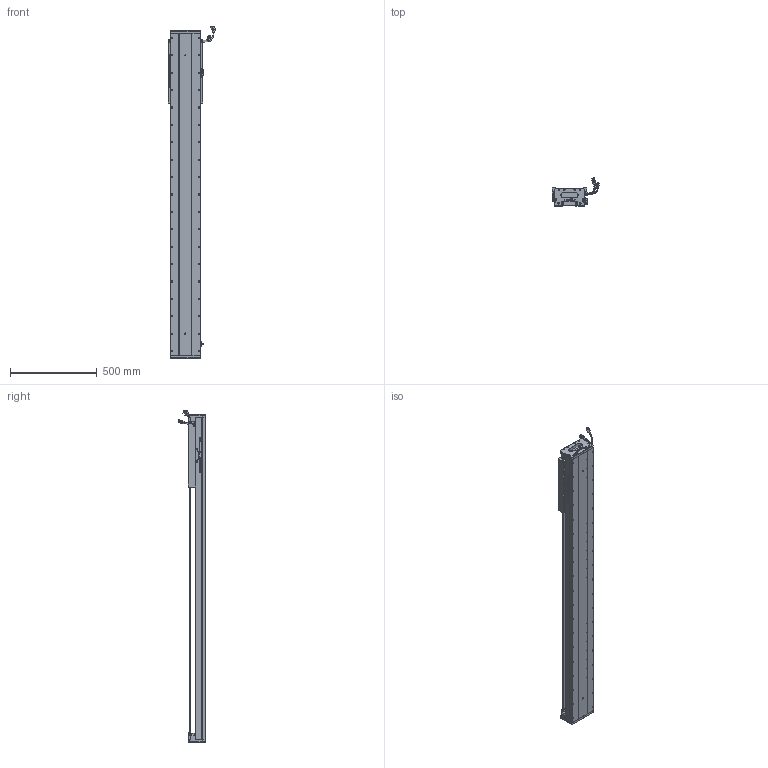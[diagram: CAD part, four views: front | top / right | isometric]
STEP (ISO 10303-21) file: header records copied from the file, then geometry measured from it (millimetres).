
FILE_DESCRIPTION (( 'STEP AP203' ), '1' );
FILE_NAME ('Z5-RY170D-1-L500-B-K.SLDASM_1400.step', '2021-05-18T00:40:47', ( '盈信电脑' ), ( '东莞市道滘镇水果街19号' ), 'SwSTEP 2.0', 'SolidWorks 2016', '' );
FILE_SCHEMA (( 'CONFIG_CONTROL_DESIGN' ));
Length unit declared in the file: millimetre
Products named in the file (36): 140雄赽晤鎢ん堤盄; Z5-RY170臏賑輸(21遴); SEAL-Part-1; Z-170詩湍傷裔啣; COVER-Part-1; SCREW-M1.7-1; SCREW-M1.6-1; RY170直线电机感应器672光电感应片; SCREW-M1.6; PBU_SHEET; SCREW-M1.6-3; PSLH080_PSLF2; SCALE-Part-1; 080黍杅芛假蚾釱21遴; 榋妏寠巭燃_暯_M2_2; SCALE; Z5-RY170-L500耀郪菁釱_1400; HARNESS-Part-1; LABEL-Part-1; Z5-RY170-L500詩湍145mm遵_1400; HARNESS; SCREW-M1.6-2; HOLDER0; SCALE-Part-2; 140蚥薯蝶輸; LABEL; Z5-RY170D-1-L500-B-K.SLDASM_1400; SHIELDPLATE; 覜茼ん672; COVER; Z-RY170詩湍奻揤裔; Z-RY170詩湍狟揤裔; 170-Z-臏賑輸盄裔(21遴); SCREW-M1.7; HARNESS-Part-2; SEAL
Assembly tree (41 placements, depth 4):
  Z5-RY170D-1-L500-B-K.SLDASM_1400
    Z5-RY170-L500耀郪菁釱_1400
    RY170直线电机感应器672光电感应片
    Z5-RY170臏賑輸(21遴)
    覜茼ん672  x3
    PSLH080_PSLF2
      SCALE
        SCALE-Part-1
        SCALE-Part-2
      HARNESS
        HARNESS-Part-1
        HARNESS-Part-2
      LABEL
        LABEL-Part-1
      COVER
        COVER-Part-1
      SEAL
        SEAL-Part-1
      榋妏寠巭燃_暯_M2_2
      SHIELDPLATE
      SCREW-M1.7
      SCREW-M1.7-1
      PBU_SHEET
      SCREW-M1.6
      SCREW-M1.6-1
      SCREW-M1.6-2
      SCREW-M1.6-3
      HOLDER0
    080黍杅芛假蚾釱21遴
    Z5-RY170-L500詩湍145mm遵_1400
    Z-170詩湍傷裔啣  x2
    Z-RY170詩湍奻揤裔  x2
    Z-RY170詩湍狟揤裔  x2
    140蚥薯蝶輸  x2
    170-Z-臏賑輸盄裔(21遴)
    140雄赽晤鎢ん堤盄
Bounding box: 275.33 x 158.11 x 1908.72 mm (x, y, z)
Volume: 10516629.4 mm3; surface area: 2508264.7 mm2
Topology: 36 solids, 36 shells, 3714 faces, 10161 edges, 6369 vertices
Faces by surface type: cylinder 1822, plane 1270, cone 500, torus 69, bspline 53
Entity records: 114201 total; most frequent: CARTESIAN_POINT 30698, ORIENTED_EDGE 16942, DIRECTION 16179, EDGE_CURVE 8471, AXIS2_PLACEMENT_3D 5972, VERTEX_POINT 5487, LINE 4235, VECTOR 4235
